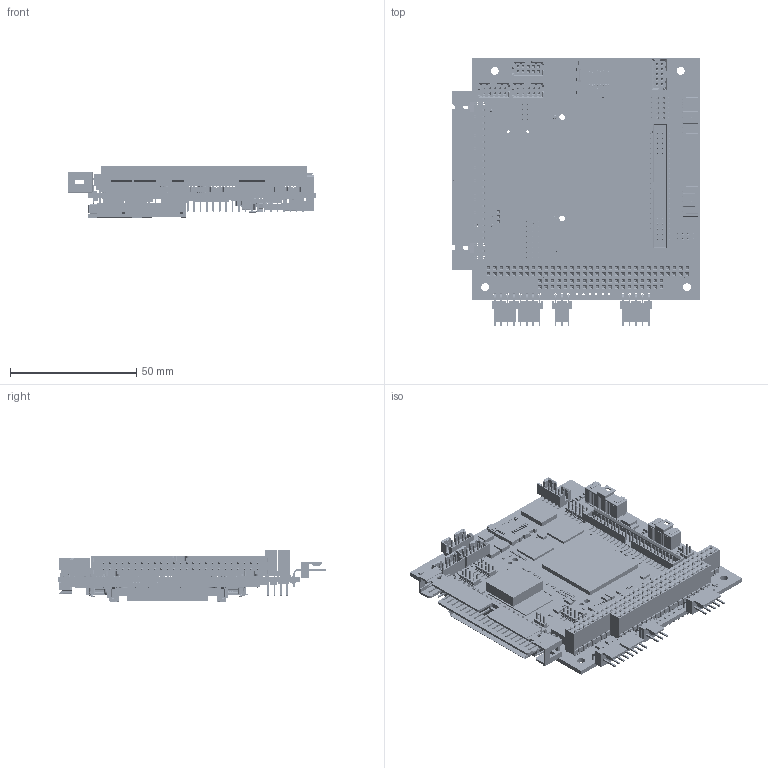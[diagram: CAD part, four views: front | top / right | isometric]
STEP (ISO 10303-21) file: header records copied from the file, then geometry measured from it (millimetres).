
FILE_DESCRIPTION (( 'STEP AP214' ), '1' );
FILE_NAME ('PCM_Vortex86DX_Mechanical.STEP', '2010-10-21T13:38:58', ( 'Vincent Tran' ), ( 'WinSystems, Inc.' ), 'SwSTEP 2.0', 'SolidWorks 2010', '' );
FILE_SCHEMA (( 'AUTOMOTIVE_DESIGN' ));
Length unit declared in the file: inch
Products named in the file (642): 546436672; Extruded_4; L5; R117; R100; R133; R129; R137; C130; R146; c-6318916-01-o-3d; R20; R19; C171; J102; L7; C124; R119; R73; R76; R123; R49; R83; R87; R88; Extruded_15; 546431040; U106; RP103; RP113; RP104; RP105; RP107; Open CASCADE STEP translator 6.2 59.23.1.1; 022122054; R164; Extruded_9; 546427712; RP102; J11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
Assembly tree (2055 placements, depth 4):
  PCM_Vortex86DX_Mechanical
    Y100
      546431680
        Extruded_42
    D13
      546433088  x2
        Extruded_44
      546436416
        Extruded_19
    D16
      546433088  x2
        Extruded_44
      546436416
        Extruded_19
    C193
      546433984
        Extruded_6
      546432704  x2
        Extruded_5
    C208
      546433856  x2
        Extruded_1
      546433984
        Extruded_6
    C189
      546433984
        Extruded_6
      546432704  x2
        Extruded_5
    U13
      546431296
        Extruded_41
    C200
      546433856  x2
        Extruded_1
      546433984
        Extruded_6
    C187
      546432704  x2
        Extruded_5
      546433984
        Extruded_6
    C172
      546432704  x2
        Extruded_5
      546433984
        Extruded_6
    D100
      546430272
        Extruded_46
    R166
      546432704  x2
        Extruded_5
      546432832
        Extruded
    R174
      546432832
        Extruded
      546432704  x2
        Extruded_5
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Bounding box: 98.14 x 106.14 x 21 mm (x, y, z)
Volume: 38974.4 mm3; surface area: 71866.6 mm2
Topology: 1800 solids, 1800 shells, 34559 faces, 87766 edges, 56900 vertices
Faces by surface type: plane 30117, cylinder 4302, cone 96, bspline 44
Entity records: 689317 total; most frequent: CARTESIAN_POINT 116200, ORIENTED_EDGE 105584, DIRECTION 98731, EDGE_CURVE 52792, VECTOR 46717, LINE 46717, VERTEX_POINT 34300, AXIS2_PLACEMENT_3D 26007
